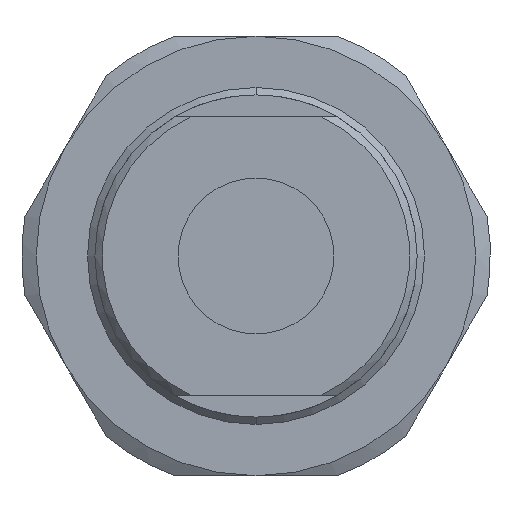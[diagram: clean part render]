
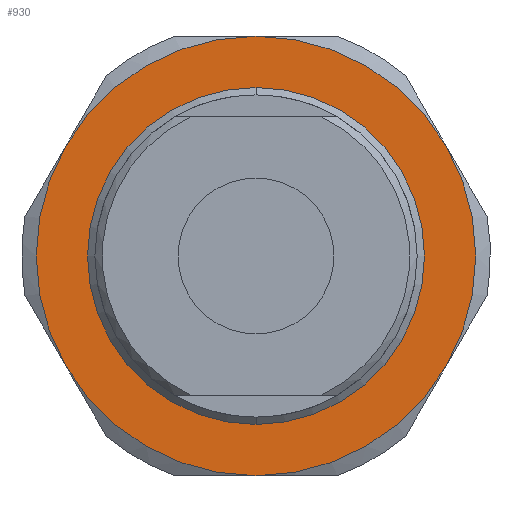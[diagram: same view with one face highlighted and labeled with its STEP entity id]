
A CAD part, front view. The second image highlights one B-rep face of the part: STEP entity #930.
In plain terms, the highlighted planar face has unit normal (0, -1, 0).
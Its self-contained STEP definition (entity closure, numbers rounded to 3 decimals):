
#46 = AXIS2_PLACEMENT_3D ( 'NONE', #1919, #1548, #1911 ) ;
#61 = CARTESIAN_POINT ( 'NONE',  ( 0., 9., -11.5 ) ) ;
#92 = VERTEX_POINT ( 'NONE', #249 ) ;
#158 = DIRECTION ( 'NONE',  ( 0., 0., 1. ) ) ;
#171 = DIRECTION ( 'NONE',  ( 0., -1., 0. ) ) ;
#180 = CIRCLE ( 'NONE', #991, 15. ) ;
#200 = EDGE_CURVE ( 'NONE', #575, #723, #855, .T. ) ;
#204 = ORIENTED_EDGE ( 'NONE', *, *, #266, .T. ) ;
#216 = AXIS2_PLACEMENT_3D ( 'NONE', #2296, #747, #1904 ) ;
#234 = CIRCLE ( 'NONE', #1298, 15. ) ;
#249 = CARTESIAN_POINT ( 'NONE',  ( 12.99, 9., 7.5 ) ) ;
#266 = EDGE_CURVE ( 'NONE', #2299, #2311, #450, .T. ) ;
#291 = CARTESIAN_POINT ( 'NONE',  ( 0., 9., 0. ) ) ;
#294 = EDGE_CURVE ( 'NONE', #723, #1120, #1222, .T. ) ;
#296 = AXIS2_PLACEMENT_3D ( 'NONE', #351, #2253, #539 ) ;
#338 = EDGE_CURVE ( 'NONE', #1120, #92, #234, .T. ) ;
#351 = CARTESIAN_POINT ( 'NONE',  ( 0., 9., 0. ) ) ;
#358 = DIRECTION ( 'NONE',  ( 0., 0., 1. ) ) ;
#436 = EDGE_CURVE ( 'NONE', #1315, #575, #2176, .T. ) ;
#440 = CARTESIAN_POINT ( 'NONE',  ( -12.99, 9., -7.5 ) ) ;
#450 = CIRCLE ( 'NONE', #1422, 11.5 ) ;
#496 = DIRECTION ( 'NONE',  ( 0., -1., 0. ) ) ;
#539 = DIRECTION ( 'NONE',  ( 0., 0., 1. ) ) ;
#544 = CARTESIAN_POINT ( 'NONE',  ( 0., 9., 0. ) ) ;
#554 = DIRECTION ( 'NONE',  ( 0., -1., 0. ) ) ;
#575 = VERTEX_POINT ( 'NONE', #440 ) ;
#589 = ORIENTED_EDGE ( 'NONE', *, *, #436, .T. ) ;
#630 = DIRECTION ( 'NONE',  ( 0., -1., 0. ) ) ;
#723 = VERTEX_POINT ( 'NONE', #1852 ) ;
#732 = DIRECTION ( 'NONE',  ( 0., 1., 0. ) ) ;
#736 = CARTESIAN_POINT ( 'NONE',  ( 0., 9., 0. ) ) ;
#747 = DIRECTION ( 'NONE',  ( 0., 1., 0. ) ) ;
#809 = CARTESIAN_POINT ( 'NONE',  ( 0., 9., 15. ) ) ;
#816 = ORIENTED_EDGE ( 'NONE', *, *, #338, .T. ) ;
#855 = CIRCLE ( 'NONE', #1955, 15. ) ;
#877 = EDGE_CURVE ( 'NONE', #2035, #1315, #180, .T. ) ;
#930 = ADVANCED_FACE ( 'NONE', ( #1905, #2334 ), #967, .F. ) ;
#967 = PLANE ( 'NONE',  #46 ) ;
#991 = AXIS2_PLACEMENT_3D ( 'NONE', #736, #1301, #158 ) ;
#997 = CARTESIAN_POINT ( 'NONE',  ( 0., 9., 0. ) ) ;
#1120 = VERTEX_POINT ( 'NONE', #1947 ) ;
#1128 = ORIENTED_EDGE ( 'NONE', *, *, #2419, .T. ) ;
#1188 = DIRECTION ( 'NONE',  ( 0., 0., 1. ) ) ;
#1222 = CIRCLE ( 'NONE', #296, 15. ) ;
#1282 = DIRECTION ( 'NONE',  ( 0., 0., 1. ) ) ;
#1298 = AXIS2_PLACEMENT_3D ( 'NONE', #1319, #171, #358 ) ;
#1301 = DIRECTION ( 'NONE',  ( 0., -1., 0. ) ) ;
#1315 = VERTEX_POINT ( 'NONE', #1860 ) ;
#1319 = CARTESIAN_POINT ( 'NONE',  ( 0., 9., 0. ) ) ;
#1422 = AXIS2_PLACEMENT_3D ( 'NONE', #544, #732, #1477 ) ;
#1477 = DIRECTION ( 'NONE',  ( 0., 0., 1. ) ) ;
#1488 = CIRCLE ( 'NONE', #1836, 15. ) ;
#1548 = DIRECTION ( 'NONE',  ( 0., 1., 0. ) ) ;
#1550 = CARTESIAN_POINT ( 'NONE',  ( 0., 9., 0. ) ) ;
#1677 = EDGE_LOOP ( 'NONE', ( #204, #1128 ) ) ;
#1714 = CIRCLE ( 'NONE', #216, 11.5 ) ;
#1729 = DIRECTION ( 'NONE',  ( 0., 0., 1. ) ) ;
#1781 = ORIENTED_EDGE ( 'NONE', *, *, #294, .T. ) ;
#1836 = AXIS2_PLACEMENT_3D ( 'NONE', #997, #630, #1188 ) ;
#1852 = CARTESIAN_POINT ( 'NONE',  ( 0., 9., -15. ) ) ;
#1860 = CARTESIAN_POINT ( 'NONE',  ( -12.99, 9., 7.5 ) ) ;
#1880 = ORIENTED_EDGE ( 'NONE', *, *, #877, .T. ) ;
#1904 = DIRECTION ( 'NONE',  ( 0., 0., 1. ) ) ;
#1905 = FACE_BOUND ( 'NONE', #1677, .T. ) ;
#1911 = DIRECTION ( 'NONE',  ( 0., 0., 1. ) ) ;
#1919 = CARTESIAN_POINT ( 'NONE',  ( 0., 9., 0. ) ) ;
#1947 = CARTESIAN_POINT ( 'NONE',  ( 12.99, 9., -7.5 ) ) ;
#1955 = AXIS2_PLACEMENT_3D ( 'NONE', #291, #496, #1282 ) ;
#2035 = VERTEX_POINT ( 'NONE', #809 ) ;
#2123 = ORIENTED_EDGE ( 'NONE', *, *, #200, .T. ) ;
#2176 = CIRCLE ( 'NONE', #2270, 15. ) ;
#2225 = EDGE_LOOP ( 'NONE', ( #1880, #589, #2123, #1781, #816, #2359 ) ) ;
#2227 = EDGE_CURVE ( 'NONE', #92, #2035, #1488, .T. ) ;
#2253 = DIRECTION ( 'NONE',  ( 0., -1., 0. ) ) ;
#2270 = AXIS2_PLACEMENT_3D ( 'NONE', #1550, #554, #1729 ) ;
#2296 = CARTESIAN_POINT ( 'NONE',  ( 0., 9., 0. ) ) ;
#2299 = VERTEX_POINT ( 'NONE', #2441 ) ;
#2311 = VERTEX_POINT ( 'NONE', #61 ) ;
#2334 = FACE_OUTER_BOUND ( 'NONE', #2225, .T. ) ;
#2359 = ORIENTED_EDGE ( 'NONE', *, *, #2227, .T. ) ;
#2419 = EDGE_CURVE ( 'NONE', #2311, #2299, #1714, .T. ) ;
#2441 = CARTESIAN_POINT ( 'NONE',  ( 0., 9., 11.5 ) ) ;
